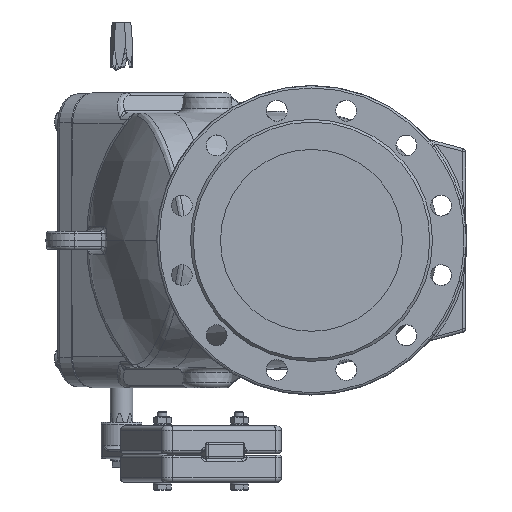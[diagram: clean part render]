
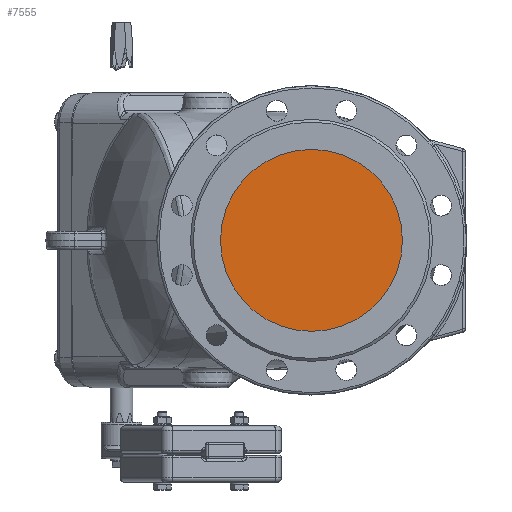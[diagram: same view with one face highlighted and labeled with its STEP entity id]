
A CAD part, left-side view. The second image highlights one B-rep face of the part: STEP entity #7555.
In plain terms, the highlighted planar face has unit normal (-1, 0, 0).
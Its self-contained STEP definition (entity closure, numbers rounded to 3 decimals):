
#7555=ADVANCED_FACE('',(#21062),#21064,.F.);
#21062=FACE_BOUND('',#21063,.T.);
#21063=EDGE_LOOP('',(#28625,#28626));
#21064=PLANE('',#21065);
#21065=AXIS2_PLACEMENT_3D('',#21066,#21067,#21068);
#21066=CARTESIAN_POINT('',(-240.,0.,0.));
#21067=DIRECTION('',(1.,0.,0.));
#21068=DIRECTION('',(0.,0.,-1.));
#28625=ORIENTED_EDGE('',*,*,#32790,.T.);
#28626=ORIENTED_EDGE('',*,*,#32791,.T.);
#32790=EDGE_CURVE('',#37194,#37195,#37196,.T.);
#32791=EDGE_CURVE('',#37195,#37194,#37197,.T.);
#37194=VERTEX_POINT('',#82060);
#37195=VERTEX_POINT('',#82061);
#37196=CIRCLE('',#82062,100.);
#37197=CIRCLE('',#82066,100.);
#82060=CARTESIAN_POINT('',(-240.,0.,-100.));
#82061=CARTESIAN_POINT('',(-240.,100.,0.));
#82062=AXIS2_PLACEMENT_3D('',#82063,#82064,#82065);
#82063=CARTESIAN_POINT('',(-240.,0.,0.));
#82064=DIRECTION('',(-1.,0.,0.));
#82065=DIRECTION('',(0.,0.,-1.));
#82066=AXIS2_PLACEMENT_3D('',#82067,#82068,#82069);
#82067=CARTESIAN_POINT('',(-240.,0.,0.));
#82068=DIRECTION('',(-1.,0.,0.));
#82069=DIRECTION('',(0.,1.,0.));
